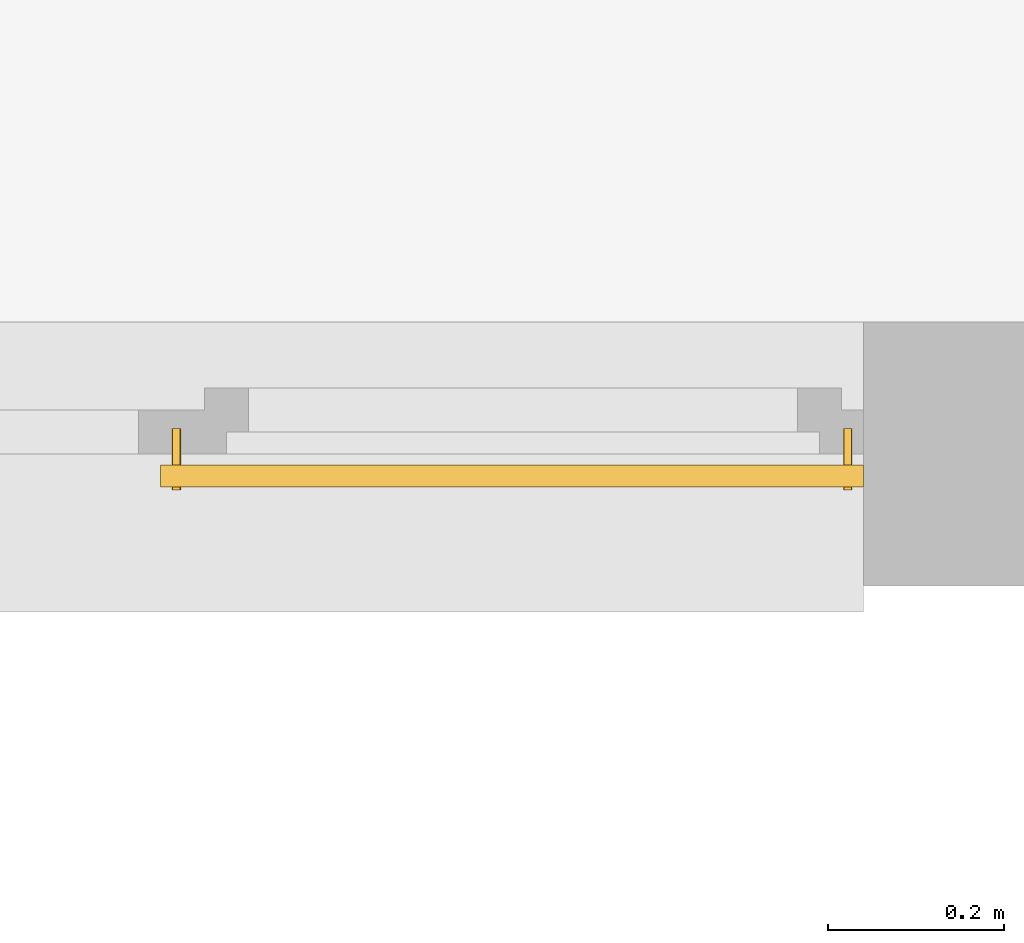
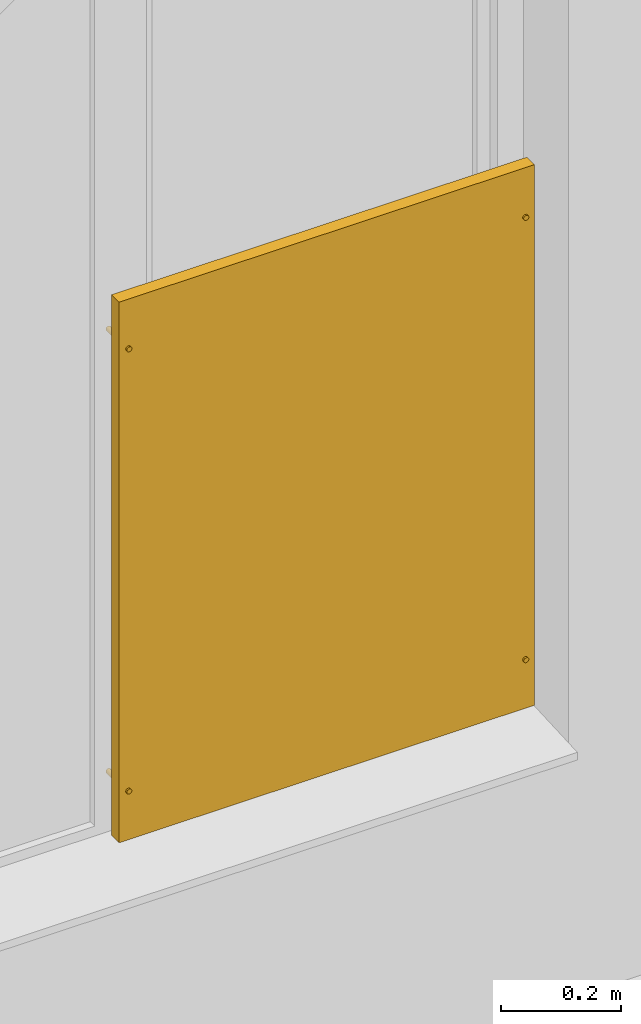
# One storey, part 6 of 8: 1 railing.
"""IFC2X3 building model written with IfcOpenShell, lengths in millimetres."""

from ifc_helpers import new_model, entity, si_unit, converted_unit, derived_unit, money_unit, direction, frame, origin_with_axes, place, context, subcontext, project, spatial, faceted_brep, material, material_list, type_object, element, save


model = new_model("IFC2X3")

# Units and contexts
model_context = context("Model", 3, precision=1e-05, world=origin_with_axes(), true_north=direction((0.0, 1.0)))
body_context = subcontext(model_context, "Body", "Model", "MODEL_VIEW")
ifc_project = project(units=[si_unit("LENGTHUNIT", "METRE", prefix="MILLI"), si_unit("AREAUNIT", "SQUARE_METRE"), si_unit("VOLUMEUNIT", "CUBIC_METRE"), converted_unit("PLANEANGLEUNIT", "DEGREE", entity("IfcPlaneAngleMeasure", 0.0174532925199), si_unit("PLANEANGLEUNIT", "RADIAN"), dimensions=[0, 0, 0, 0, 0, 0, 0]), si_unit("SOLIDANGLEUNIT", "STERADIAN"), money_unit("USD"), converted_unit("TIMEUNIT", "Year", entity("IfcTimeMeasure", 31556926.0), si_unit("TIMEUNIT", "SECOND"), dimensions=[0, 0, 1, 0, 0, 0, 0]), si_unit("MASSUNIT", "GRAM", prefix="KILO"), si_unit("THERMODYNAMICTEMPERATUREUNIT", "DEGREE_CELSIUS"), si_unit("LUMINOUSINTENSITYUNIT", "LUMEN"), si_unit("ENERGYUNIT", "JOULE", prefix="MEGA"), derived_unit("THERMALCONDUCTANCEUNIT", [(si_unit("POWERUNIT", "WATT"), 1), (si_unit("LENGTHUNIT", "METRE"), -1), (si_unit("THERMODYNAMICTEMPERATUREUNIT", "KELVIN"), -1)]), derived_unit("SPECIFICHEATCAPACITYUNIT", [(si_unit("ENERGYUNIT", "JOULE"), 1), (si_unit("MASSUNIT", "GRAM", prefix="KILO"), -1), (si_unit("THERMODYNAMICTEMPERATUREUNIT", "KELVIN"), -1)]), derived_unit("MASSDENSITYUNIT", [(si_unit("MASSUNIT", "GRAM", prefix="KILO"), 1), (si_unit("VOLUMEUNIT", "CUBIC_METRE"), -1)])], contexts=[model_context])

# Site, building, storey
site_placement = place(None, origin_with_axes())
site = spatial("IfcSite", under=ifc_project, at=site_placement, Name="Site", CompositionType="ELEMENT")
building_placement = place(site_placement, origin_with_axes())
building = spatial("IfcBuilding", under=site, at=building_placement, Name="Building", CompositionType="ELEMENT")
storey_placement = place(building_placement, origin_with_axes())
storey = spatial("IfcBuildingStorey", under=building, at=storey_placement, Name="Ground Floor", CompositionType="ELEMENT", Elevation=0.0)

# Railing
ifc_material = material(Name="Aluminium")
ifc_material_list = material_list([ifc_material, ifc_material, ifc_material, ifc_material, ifc_material, ifc_material])
railing_type = type_object("IfcRailingType", Name="Railing Type", PredefinedType="NOTDEFINED")
railing_placement = place(storey_placement, frame((-20307.1700511, 4280.41294117, 530.0), z_axis=(0.0, 0.0, 1.0), x_axis=(0.0, 1.0, 0.0)))
element("IfcRailing", 1, at=railing_placement, inside=storey, type_object=railing_type, material=ifc_material_list, Name="F-Line NORDKAPP 1,1m", PredefinedType="NOTDEFINED", context=body_context, shape_type="Brep", body=[
    faceted_brep([(-29.0, 791.5, 1091.5), (-29.0, 791.5, 8.5), (-29.0, 8.5, 8.5), (-29.0, 8.5, 1091.5), (-21.0, 791.5, 1091.5), (-21.0, 791.5, 8.5), (-21.0, 8.5, 8.5), (-21.0, 8.5, 1091.5)], [[[0, 1, 2, 3]], [[1, 0, 4, 5]], [[6, 2, 1, 5]], [[7, 3, 2, 6]], [[0, 3, 7, 4]], [[6, 5, 4, 7]]]),
    faceted_brep([(-41.0, 22.9240387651, 100.868240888), (29.0, 22.9240387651, 100.868240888), (29.0, 22.9240387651, 99.1317591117), (-41.0, 22.9240387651, 99.1317591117), (-41.0, 22.6984631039, 101.710100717), (29.0, 22.6984631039, 101.710100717), (29.0, 22.3301270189, 102.5), (29.0, 21.8302222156, 103.213938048), (29.0, 21.2139380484, 103.830222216), (29.0, 20.5, 104.330127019), (29.0, 19.7101007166, 104.698463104), (29.0, 18.8682408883, 104.924038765), (29.0, 18.0, 105.0), (29.0, 17.1317591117, 104.924038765), (29.0, 16.2898992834, 104.698463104), (29.0, 15.5, 104.330127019), (29.0, 14.7860619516, 103.830222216), (29.0, 14.1697777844, 103.213938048), (29.0, 13.6698729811, 102.5), (29.0, 13.3015368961, 101.710100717), (29.0, 13.0759612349, 100.868240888), (29.0, 13.0, 100.0), (29.0, 13.0759612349, 99.1317591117), (29.0, 13.3015368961, 98.2898992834), (29.0, 13.6698729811, 97.5), (29.0, 14.1697777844, 96.7860619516), (29.0, 14.7860619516, 96.1697777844), (29.0, 15.5, 95.6698729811), (29.0, 16.2898992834, 95.3015368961), (29.0, 17.1317591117, 95.0759612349), (29.0, 18.0, 95.0), (29.0, 18.8682408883, 95.0759612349), (29.0, 19.7101007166, 95.3015368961), (29.0, 20.5, 95.6698729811), (29.0, 21.2139380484, 96.1697777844), (29.0, 21.8302222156, 96.7860619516), (29.0, 22.3301270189, 97.5), (29.0, 22.6984631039, 98.2898992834), (-41.0, 22.6984631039, 98.2898992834), (-41.0, 22.3301270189, 97.5), (-41.0, 21.8302222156, 96.7860619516), (-41.0, 21.2139380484, 96.1697777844), (-41.0, 20.5, 95.6698729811), (-41.0, 19.7101007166, 95.3015368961), (-41.0, 18.8682408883, 95.0759612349), (-41.0, 18.0, 95.0), (-41.0, 17.1317591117, 95.0759612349), (-41.0, 16.2898992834, 95.3015368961), (-41.0, 15.5, 95.6698729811), (-41.0, 14.7860619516, 96.1697777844), (-41.0, 14.1697777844, 96.7860619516), (-41.0, 13.6698729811, 97.5), (-41.0, 13.3015368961, 98.2898992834), (-41.0, 13.0759612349, 99.1317591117), (-41.0, 13.0, 100.0), (-41.0, 13.0759612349, 100.868240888), (-41.0, 13.3015368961, 101.710100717), (-41.0, 13.6698729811, 102.5), (-41.0, 14.1697777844, 103.213938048), (-41.0, 14.7860619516, 103.830222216), (-41.0, 15.5, 104.330127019), (-41.0, 16.2898992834, 104.698463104), (-41.0, 17.1317591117, 104.924038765), (-41.0, 18.0, 105.0), (-41.0, 18.8682408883, 104.924038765), (-41.0, 19.7101007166, 104.698463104), (-41.0, 20.5, 104.330127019), (-41.0, 21.2139380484, 103.830222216), (-41.0, 21.8302222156, 103.213938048), (-41.0, 22.3301270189, 102.5)], [[[0, 1, 2, 3]], [[4, 5, 1, 0]], [[1, 5, 6, 7, 8, 9, 10, 11, 12, 13, 14, 15, 16, 17, 18, 19, 20, 21, 22, 23, 24, 25, 26, 27, 28, 29, 30, 31, 32, 33, 34, 35, 36, 37, 2]], [[3, 2, 37, 38]], [[0, 3, 38, 39, 40, 41, 42, 43, 44, 45, 46, 47, 48, 49, 50, 51, 52, 53, 54, 55, 56, 57, 58, 59, 60, 61, 62, 63, 64, 65, 66, 67, 68, 69, 4]], [[69, 6, 5, 4]], [[68, 7, 6, 69]], [[67, 8, 7, 68]], [[66, 9, 8, 67]], [[65, 10, 9, 66]], [[64, 11, 10, 65]], [[63, 12, 11, 64]], [[62, 13, 12, 63]], [[61, 14, 13, 62]], [[60, 15, 14, 61]], [[59, 16, 15, 60]], [[58, 17, 16, 59]], [[57, 18, 17, 58]], [[56, 19, 18, 57]], [[55, 20, 19, 56]], [[54, 21, 20, 55]], [[53, 22, 21, 54]], [[52, 23, 22, 53]], [[51, 24, 23, 52]], [[50, 25, 24, 51]], [[49, 26, 25, 50]], [[48, 27, 26, 49]], [[47, 28, 27, 48]], [[46, 29, 28, 47]], [[45, 30, 29, 46]], [[44, 31, 30, 45]], [[43, 32, 31, 44]], [[42, 33, 32, 43]], [[41, 34, 33, 42]], [[40, 35, 34, 41]], [[39, 36, 35, 40]], [[38, 37, 36, 39]]]),
    faceted_brep([(-41.0, 22.9240387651, 1000.86824089), (29.0, 22.9240387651, 1000.86824089), (29.0, 22.9240387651, 999.131759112), (-41.0, 22.9240387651, 999.131759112), (-41.0, 22.6984631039, 1001.71010072), (29.0, 22.6984631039, 1001.71010072), (29.0, 22.3301270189, 1002.5), (29.0, 21.8302222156, 1003.21393805), (29.0, 21.2139380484, 1003.83022222), (29.0, 20.5, 1004.33012702), (29.0, 19.7101007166, 1004.6984631), (29.0, 18.8682408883, 1004.92403877), (29.0, 18.0, 1005.0), (29.0, 17.1317591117, 1004.92403877), (29.0, 16.2898992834, 1004.6984631), (29.0, 15.5, 1004.33012702), (29.0, 14.7860619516, 1003.83022222), (29.0, 14.1697777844, 1003.21393805), (29.0, 13.6698729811, 1002.5), (29.0, 13.3015368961, 1001.71010072), (29.0, 13.0759612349, 1000.86824089), (29.0, 13.0, 1000.0), (29.0, 13.0759612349, 999.131759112), (29.0, 13.3015368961, 998.289899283), (29.0, 13.6698729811, 997.5), (29.0, 14.1697777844, 996.786061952), (29.0, 14.7860619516, 996.169777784), (29.0, 15.5, 995.669872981), (29.0, 16.2898992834, 995.301536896), (29.0, 17.1317591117, 995.075961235), (29.0, 18.0, 995.0), (29.0, 18.8682408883, 995.075961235), (29.0, 19.7101007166, 995.301536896), (29.0, 20.5, 995.669872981), (29.0, 21.2139380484, 996.169777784), (29.0, 21.8302222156, 996.786061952), (29.0, 22.3301270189, 997.5), (29.0, 22.6984631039, 998.289899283), (-41.0, 22.6984631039, 998.289899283), (-41.0, 22.3301270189, 997.5), (-41.0, 21.8302222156, 996.786061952), (-41.0, 21.2139380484, 996.169777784), (-41.0, 20.5, 995.669872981), (-41.0, 19.7101007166, 995.301536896), (-41.0, 18.8682408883, 995.075961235), (-41.0, 18.0, 995.0), (-41.0, 17.1317591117, 995.075961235), (-41.0, 16.2898992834, 995.301536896), (-41.0, 15.5, 995.669872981), (-41.0, 14.7860619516, 996.169777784), (-41.0, 14.1697777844, 996.786061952), (-41.0, 13.6698729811, 997.5), (-41.0, 13.3015368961, 998.289899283), (-41.0, 13.0759612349, 999.131759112), (-41.0, 13.0, 1000.0), (-41.0, 13.0759612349, 1000.86824089), (-41.0, 13.3015368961, 1001.71010072), (-41.0, 13.6698729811, 1002.5), (-41.0, 14.1697777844, 1003.21393805), (-41.0, 14.7860619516, 1003.83022222), (-41.0, 15.5, 1004.33012702), (-41.0, 16.2898992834, 1004.6984631), (-41.0, 17.1317591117, 1004.92403877), (-41.0, 18.0, 1005.0), (-41.0, 18.8682408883, 1004.92403877), (-41.0, 19.7101007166, 1004.6984631), (-41.0, 20.5, 1004.33012702), (-41.0, 21.2139380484, 1003.83022222), (-41.0, 21.8302222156, 1003.21393805), (-41.0, 22.3301270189, 1002.5)], [[[0, 1, 2, 3]], [[4, 5, 1, 0]], [[1, 5, 6, 7, 8, 9, 10, 11, 12, 13, 14, 15, 16, 17, 18, 19, 20, 21, 22, 23, 24, 25, 26, 27, 28, 29, 30, 31, 32, 33, 34, 35, 36, 37, 2]], [[3, 2, 37, 38]], [[0, 3, 38, 39, 40, 41, 42, 43, 44, 45, 46, 47, 48, 49, 50, 51, 52, 53, 54, 55, 56, 57, 58, 59, 60, 61, 62, 63, 64, 65, 66, 67, 68, 69, 4]], [[69, 6, 5, 4]], [[68, 7, 6, 69]], [[67, 8, 7, 68]], [[66, 9, 8, 67]], [[65, 10, 9, 66]], [[64, 11, 10, 65]], [[63, 12, 11, 64]], [[62, 13, 12, 63]], [[61, 14, 13, 62]], [[60, 15, 14, 61]], [[59, 16, 15, 60]], [[58, 17, 16, 59]], [[57, 18, 17, 58]], [[56, 19, 18, 57]], [[55, 20, 19, 56]], [[54, 21, 20, 55]], [[53, 22, 21, 54]], [[52, 23, 22, 53]], [[51, 24, 23, 52]], [[50, 25, 24, 51]], [[49, 26, 25, 50]], [[48, 27, 26, 49]], [[47, 28, 27, 48]], [[46, 29, 28, 47]], [[45, 30, 29, 46]], [[44, 31, 30, 45]], [[43, 32, 31, 44]], [[42, 33, 32, 43]], [[41, 34, 33, 42]], [[40, 35, 34, 41]], [[39, 36, 35, 40]], [[38, 37, 36, 39]]]),
    faceted_brep([(-41.0, 786.924038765, 100.868240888), (29.0, 786.924038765, 100.868240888), (29.0, 786.924038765, 99.1317591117), (-41.0, 786.924038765, 99.1317591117), (-41.0, 786.698463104, 101.710100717), (29.0, 786.698463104, 101.710100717), (29.0, 786.330127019, 102.5), (29.0, 785.830222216, 103.213938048), (29.0, 785.213938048, 103.830222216), (29.0, 784.5, 104.330127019), (29.0, 783.710100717, 104.698463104), (29.0, 782.868240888, 104.924038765), (29.0, 782.0, 105.0), (29.0, 781.131759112, 104.924038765), (29.0, 780.289899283, 104.698463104), (29.0, 779.5, 104.330127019), (29.0, 778.786061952, 103.830222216), (29.0, 778.169777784, 103.213938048), (29.0, 777.669872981, 102.5), (29.0, 777.301536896, 101.710100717), (29.0, 777.075961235, 100.868240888), (29.0, 777.0, 100.0), (29.0, 777.075961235, 99.1317591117), (29.0, 777.301536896, 98.2898992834), (29.0, 777.669872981, 97.5), (29.0, 778.169777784, 96.7860619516), (29.0, 778.786061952, 96.1697777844), (29.0, 779.5, 95.6698729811), (29.0, 780.289899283, 95.3015368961), (29.0, 781.131759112, 95.0759612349), (29.0, 782.0, 95.0), (29.0, 782.868240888, 95.0759612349), (29.0, 783.710100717, 95.3015368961), (29.0, 784.5, 95.6698729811), (29.0, 785.213938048, 96.1697777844), (29.0, 785.830222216, 96.7860619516), (29.0, 786.330127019, 97.5), (29.0, 786.698463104, 98.2898992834), (-41.0, 786.698463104, 98.2898992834), (-41.0, 786.330127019, 97.5), (-41.0, 785.830222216, 96.7860619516), (-41.0, 785.213938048, 96.1697777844), (-41.0, 784.5, 95.6698729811), (-41.0, 783.710100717, 95.3015368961), (-41.0, 782.868240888, 95.0759612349), (-41.0, 782.0, 95.0), (-41.0, 781.131759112, 95.0759612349), (-41.0, 780.289899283, 95.3015368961), (-41.0, 779.5, 95.6698729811), (-41.0, 778.786061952, 96.1697777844), (-41.0, 778.169777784, 96.7860619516), (-41.0, 777.669872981, 97.5), (-41.0, 777.301536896, 98.2898992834), (-41.0, 777.075961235, 99.1317591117), (-41.0, 777.0, 100.0), (-41.0, 777.075961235, 100.868240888), (-41.0, 777.301536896, 101.710100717), (-41.0, 777.669872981, 102.5), (-41.0, 778.169777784, 103.213938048), (-41.0, 778.786061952, 103.830222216), (-41.0, 779.5, 104.330127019), (-41.0, 780.289899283, 104.698463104), (-41.0, 781.131759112, 104.924038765), (-41.0, 782.0, 105.0), (-41.0, 782.868240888, 104.924038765), (-41.0, 783.710100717, 104.698463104), (-41.0, 784.5, 104.330127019), (-41.0, 785.213938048, 103.830222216), (-41.0, 785.830222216, 103.213938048), (-41.0, 786.330127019, 102.5)], [[[0, 1, 2, 3]], [[4, 5, 1, 0]], [[1, 5, 6, 7, 8, 9, 10, 11, 12, 13, 14, 15, 16, 17, 18, 19, 20, 21, 22, 23, 24, 25, 26, 27, 28, 29, 30, 31, 32, 33, 34, 35, 36, 37, 2]], [[3, 2, 37, 38]], [[0, 3, 38, 39, 40, 41, 42, 43, 44, 45, 46, 47, 48, 49, 50, 51, 52, 53, 54, 55, 56, 57, 58, 59, 60, 61, 62, 63, 64, 65, 66, 67, 68, 69, 4]], [[69, 6, 5, 4]], [[68, 7, 6, 69]], [[67, 8, 7, 68]], [[66, 9, 8, 67]], [[65, 10, 9, 66]], [[64, 11, 10, 65]], [[63, 12, 11, 64]], [[62, 13, 12, 63]], [[61, 14, 13, 62]], [[60, 15, 14, 61]], [[59, 16, 15, 60]], [[58, 17, 16, 59]], [[57, 18, 17, 58]], [[56, 19, 18, 57]], [[55, 20, 19, 56]], [[54, 21, 20, 55]], [[53, 22, 21, 54]], [[52, 23, 22, 53]], [[51, 24, 23, 52]], [[50, 25, 24, 51]], [[49, 26, 25, 50]], [[48, 27, 26, 49]], [[47, 28, 27, 48]], [[46, 29, 28, 47]], [[45, 30, 29, 46]], [[44, 31, 30, 45]], [[43, 32, 31, 44]], [[42, 33, 32, 43]], [[41, 34, 33, 42]], [[40, 35, 34, 41]], [[39, 36, 35, 40]], [[38, 37, 36, 39]]]),
    faceted_brep([(-41.0, 786.924038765, 1000.86824089), (29.0, 786.924038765, 1000.86824089), (29.0, 786.924038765, 999.131759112), (-41.0, 786.924038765, 999.131759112), (-41.0, 786.698463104, 1001.71010072), (29.0, 786.698463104, 1001.71010072), (29.0, 786.330127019, 1002.5), (29.0, 785.830222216, 1003.21393805), (29.0, 785.213938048, 1003.83022222), (29.0, 784.5, 1004.33012702), (29.0, 783.710100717, 1004.6984631), (29.0, 782.868240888, 1004.92403877), (29.0, 782.0, 1005.0), (29.0, 781.131759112, 1004.92403877), (29.0, 780.289899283, 1004.6984631), (29.0, 779.5, 1004.33012702), (29.0, 778.786061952, 1003.83022222), (29.0, 778.169777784, 1003.21393805), (29.0, 777.669872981, 1002.5), (29.0, 777.301536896, 1001.71010072), (29.0, 777.075961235, 1000.86824089), (29.0, 777.0, 1000.0), (29.0, 777.075961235, 999.131759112), (29.0, 777.301536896, 998.289899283), (29.0, 777.669872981, 997.5), (29.0, 778.169777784, 996.786061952), (29.0, 778.786061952, 996.169777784), (29.0, 779.5, 995.669872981), (29.0, 780.289899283, 995.301536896), (29.0, 781.131759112, 995.075961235), (29.0, 782.0, 995.0), (29.0, 782.868240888, 995.075961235), (29.0, 783.710100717, 995.301536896), (29.0, 784.5, 995.669872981), (29.0, 785.213938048, 996.169777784), (29.0, 785.830222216, 996.786061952), (29.0, 786.330127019, 997.5), (29.0, 786.698463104, 998.289899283), (-41.0, 786.698463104, 998.289899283), (-41.0, 786.330127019, 997.5), (-41.0, 785.830222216, 996.786061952), (-41.0, 785.213938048, 996.169777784), (-41.0, 784.5, 995.669872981), (-41.0, 783.710100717, 995.301536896), (-41.0, 782.868240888, 995.075961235), (-41.0, 782.0, 995.0), (-41.0, 781.131759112, 995.075961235), (-41.0, 780.289899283, 995.301536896), (-41.0, 779.5, 995.669872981), (-41.0, 778.786061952, 996.169777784), (-41.0, 778.169777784, 996.786061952), (-41.0, 777.669872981, 997.5), (-41.0, 777.301536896, 998.289899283), (-41.0, 777.075961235, 999.131759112), (-41.0, 777.0, 1000.0), (-41.0, 777.075961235, 1000.86824089), (-41.0, 777.301536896, 1001.71010072), (-41.0, 777.669872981, 1002.5), (-41.0, 778.169777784, 1003.21393805), (-41.0, 778.786061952, 1003.83022222), (-41.0, 779.5, 1004.33012702), (-41.0, 780.289899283, 1004.6984631), (-41.0, 781.131759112, 1004.92403877), (-41.0, 782.0, 1005.0), (-41.0, 782.868240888, 1004.92403877), (-41.0, 783.710100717, 1004.6984631), (-41.0, 784.5, 1004.33012702), (-41.0, 785.213938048, 1003.83022222), (-41.0, 785.830222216, 1003.21393805), (-41.0, 786.330127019, 1002.5)], [[[0, 1, 2, 3]], [[4, 5, 1, 0]], [[1, 5, 6, 7, 8, 9, 10, 11, 12, 13, 14, 15, 16, 17, 18, 19, 20, 21, 22, 23, 24, 25, 26, 27, 28, 29, 30, 31, 32, 33, 34, 35, 36, 37, 2]], [[3, 2, 37, 38]], [[0, 3, 38, 39, 40, 41, 42, 43, 44, 45, 46, 47, 48, 49, 50, 51, 52, 53, 54, 55, 56, 57, 58, 59, 60, 61, 62, 63, 64, 65, 66, 67, 68, 69, 4]], [[69, 6, 5, 4]], [[68, 7, 6, 69]], [[67, 8, 7, 68]], [[66, 9, 8, 67]], [[65, 10, 9, 66]], [[64, 11, 10, 65]], [[63, 12, 11, 64]], [[62, 13, 12, 63]], [[61, 14, 13, 62]], [[60, 15, 14, 61]], [[59, 16, 15, 60]], [[58, 17, 16, 59]], [[57, 18, 17, 58]], [[56, 19, 18, 57]], [[55, 20, 19, 56]], [[54, 21, 20, 55]], [[53, 22, 21, 54]], [[52, 23, 22, 53]], [[51, 24, 23, 52]], [[50, 25, 24, 51]], [[49, 26, 25, 50]], [[48, 27, 26, 49]], [[47, 28, 27, 48]], [[46, 29, 28, 47]], [[45, 30, 29, 46]], [[44, 31, 30, 45]], [[43, 32, 31, 44]], [[42, 33, 32, 43]], [[41, 34, 33, 42]], [[40, 35, 34, 41]], [[39, 36, 35, 40]], [[38, 37, 36, 39]]]),
    faceted_brep([(-12.5, 800.0, 0.0), (-37.5, 800.0, 0.0), (-37.5, 800.0, 1100.0), (-12.5, 800.0, 1100.0), (-12.5, 763.0, 37.0), (-21.0, 763.0, 37.0), (-21.0, 791.5, 8.5), (-29.0, 791.5, 8.5), (-29.0, 763.0, 37.0), (-37.5, 763.0, 37.0), (-37.5, 763.0, 1063.0), (-37.5, 37.0, 1063.0), (-37.5, 37.0, 37.0), (-37.5, 763.0, 37.0), (-37.5, 800.0, 0.0), (-37.5, 0.0, 0.0), (-37.5, 0.0, 1100.0), (-12.5, 0.0, 1100.0), (-12.5, 0.0, 0.0), (-12.5, 800.0, 0.0), (-12.5, 763.0, 37.0), (-12.5, 37.0, 37.0), (-12.5, 37.0, 1063.0), (-12.5, 763.0, 1063.0), (-21.0, 763.0, 1063.0), (-21.0, 37.0, 1063.0), (-21.0, 37.0, 37.0), (-21.0, 763.0, 37.0), (-21.0, 791.5, 8.5), (-21.0, 8.5, 8.5), (-21.0, 8.5, 1091.5), (-21.0, 791.5, 1091.5), (-29.0, 791.5, 1091.5), (-29.0, 8.5, 1091.5), (-29.0, 8.5, 8.5), (-29.0, 791.5, 8.5), (-29.0, 763.0, 37.0), (-29.0, 37.0, 37.0), (-29.0, 37.0, 1063.0), (-29.0, 763.0, 1063.0)], [[[0, 1, 2, 3]], [[0, 4, 5, 6, 7, 8, 9, 1]], [[1, 9, 10, 11, 12, 13, 14, 15, 16, 2]], [[3, 2, 16, 17]], [[4, 0, 3, 17, 18, 19, 20, 21, 22, 23]], [[5, 4, 23, 24]], [[6, 5, 24, 25, 26, 27, 28, 29, 30, 31]], [[7, 6, 31, 32]], [[8, 7, 32, 33, 34, 35, 36, 37, 38, 39]], [[9, 8, 39, 10]], [[10, 39, 38, 11]], [[11, 38, 37, 12]], [[12, 37, 36, 13]], [[19, 14, 13, 36, 35, 28, 27, 20]], [[18, 15, 14, 19]], [[17, 16, 15, 18]], [[26, 21, 20, 27]], [[25, 22, 21, 26]], [[24, 23, 22, 25]], [[34, 29, 28, 35]], [[33, 30, 29, 34]], [[32, 31, 30, 33]]]),
])

save(model, "model.ifc")
